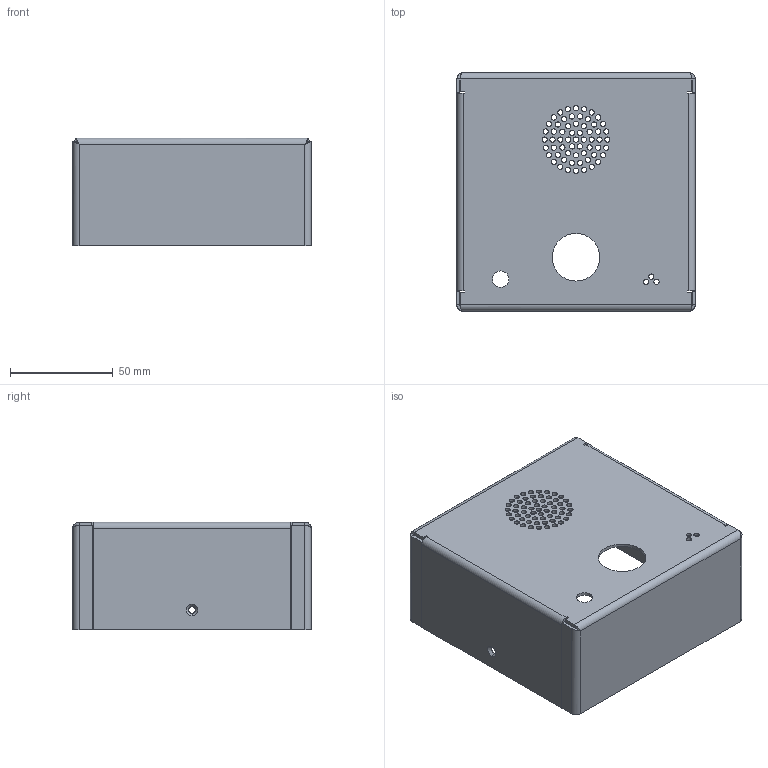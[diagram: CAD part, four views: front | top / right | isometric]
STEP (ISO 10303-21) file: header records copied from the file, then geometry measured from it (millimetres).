
FILE_DESCRIPTION (( 'STEP AP203' ), '1' );
FILE_NAME ('cad-147_IP1500_dwg.STEP', '2019-05-03T02:21:21', ( '' ), ( '' ), 'SwSTEP 2.0', 'SolidWorks 2018', '' );
FILE_SCHEMA (( 'CONFIG_CONTROL_DESIGN' ));
Length unit declared in the file: inch
Products named in the file (1): cad-147_IP1500_dwg
Bounding box: 115.82 x 115.82 x 52.32 mm (x, y, z)
Volume: 55346.6 mm3; surface area: 77326.7 mm2
Topology: 12 solids, 12 shells, 1104 faces, 3104 edges, 2044 vertices
Faces by surface type: plane 572, cylinder 328, cone 156, bspline 48
Entity records: 38639 total; most frequent: CARTESIAN_POINT 9367, ORIENTED_EDGE 6208, DIRECTION 6150, EDGE_CURVE 3104, AXIS2_PLACEMENT_3D 2285, VERTEX_POINT 2044, LINE 1580, VECTOR 1580
